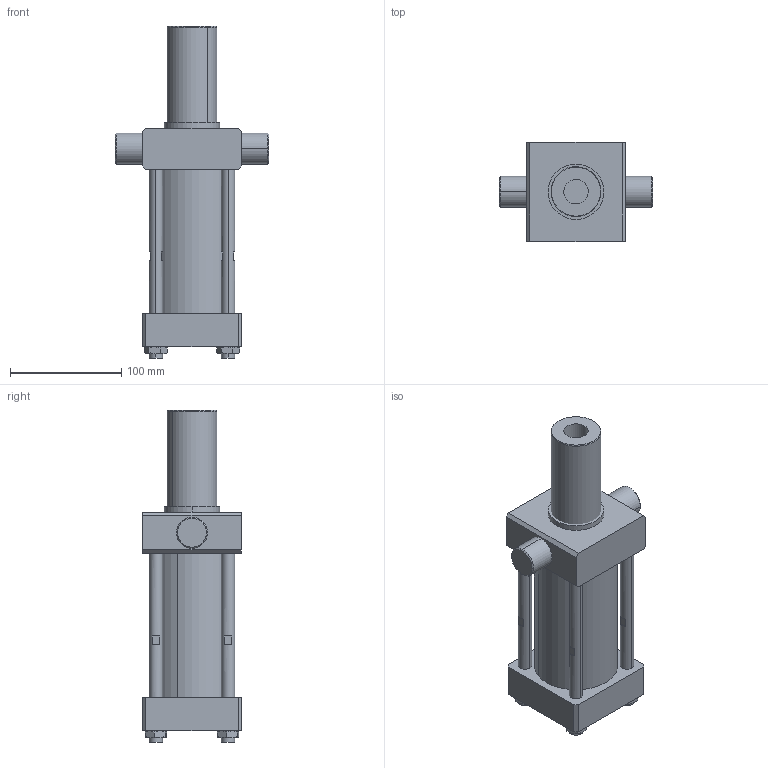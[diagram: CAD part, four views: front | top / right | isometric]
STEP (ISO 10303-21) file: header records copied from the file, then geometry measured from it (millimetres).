
FILE_DESCRIPTION (( 'STEP AP203' ), '1' );
FILE_NAME ('MT1 Tie rod cylinder 63 bore 75mm st.STEP', '2022-10-28T18:00:56', ( '' ), ( '' ), 'SwSTEP 2.0', 'SolidWorks 2017', '' );
FILE_SCHEMA (( 'CONFIG_CONTROL_DESIGN' ));
Length unit declared in the file: millimetre
Products named in the file (7): ME5-63 Front cover_1; ME5-63 pipe housing; ME5-63 End cover; ME5-63 STUD; ME5-63 piston; hex thin nut chamfered gradeab_iso_ISO - 4035 - M12 - N; MT1 Tie rod cylinder 63 bore 75mm st
Assembly tree (12 placements, depth 2):
  MT1 Tie rod cylinder 63 bore 75mm st
    ME5-63 Front cover_1
    ME5-63 pipe housing
    ME5-63 End cover
    ME5-63 STUD  x4
    ME5-63 piston
    hex thin nut chamfered gradeab_iso_ISO - 4035 - M12 - N  x4
Bounding box: 138 x 89 x 299 mm (x, y, z)
Volume: 1042539.2 mm3; surface area: 197432.8 mm2
Topology: 12 solids, 12 shells, 556 faces, 1343 edges, 868 vertices
Faces by surface type: plane 301, bspline 103, cylinder 78, cone 74
Entity records: 19706 total; most frequent: CARTESIAN_POINT 8777, ORIENTED_EDGE 2218, DIRECTION 1731, EDGE_CURVE 1109, VERTEX_POINT 730, VECTOR 727, LINE 727, EDGE_LOOP 509
